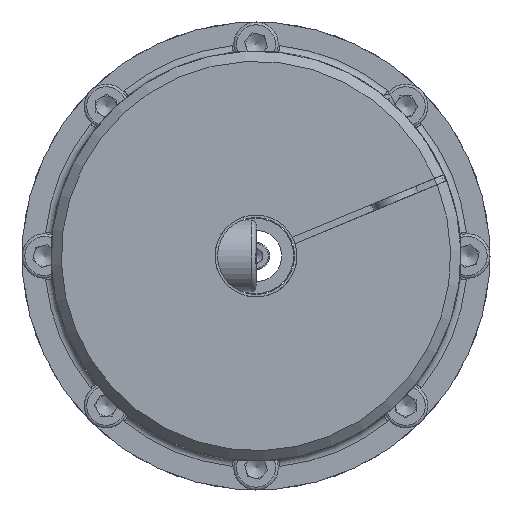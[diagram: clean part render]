
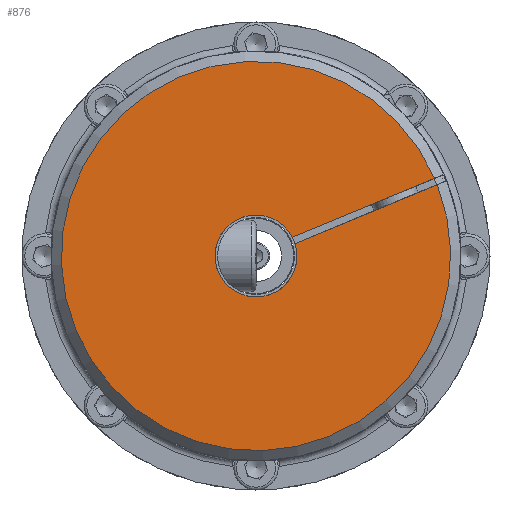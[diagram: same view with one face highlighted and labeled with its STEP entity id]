
A CAD part, left-side view. The second image highlights one B-rep face of the part: STEP entity #876.
In plain terms, the highlighted planar face has unit normal (-1, 0, 0).
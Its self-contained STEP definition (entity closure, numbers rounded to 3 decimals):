
#876 = ADVANCED_FACE( '', ( #1751 ), #1752, .F. );
#1751 = FACE_OUTER_BOUND( '', #2933, .T. );
#1752 = PLANE( '', #2934 );
#2933 = EDGE_LOOP( '', ( #5533, #5534, #5535, #5536 ) );
#2934 = AXIS2_PLACEMENT_3D( '', #5537, #5538, #5539 );
#5533 = ORIENTED_EDGE( '', *, *, #8066, .T. );
#5534 = ORIENTED_EDGE( '', *, *, #8067, .T. );
#5535 = ORIENTED_EDGE( '', *, *, #7969, .F. );
#5536 = ORIENTED_EDGE( '', *, *, #7944, .T. );
#5537 = CARTESIAN_POINT( '', ( -54.5, 0., 57. ) );
#5538 = DIRECTION( '', ( 1., 0., 0. ) );
#5539 = DIRECTION( '', ( 0., 0., -1. ) );
#7944 = EDGE_CURVE( '', #9568, #9566, #9569, .T. );
#7969 = EDGE_CURVE( '', #9568, #9612, #9613, .T. );
#8066 = EDGE_CURVE( '', #9566, #9766, #9767, .T. );
#8067 = EDGE_CURVE( '', #9766, #9612, #9768, .T. );
#9566 = VERTEX_POINT( '', #14165 );
#9568 = VERTEX_POINT( '', #14170 );
#9569 = LINE( '', #14171, #14172 );
#9612 = VERTEX_POINT( '', #14217 );
#9613 = CIRCLE( '', #14218, 12. );
#9766 = VERTEX_POINT( '', #14606 );
#9767 = CIRCLE( '', #14607, 57. );
#9768 = LINE( '', #14608, #14609 );
#14165 = CARTESIAN_POINT( '', ( -54.5, -53.036, -20.886 ) );
#14170 = CARTESIAN_POINT( '', ( -54.5, -11.431, -3.652 ) );
#14171 = CARTESIAN_POINT( '', ( -54.5, 19.77, 9.271 ) );
#14172 = VECTOR( '', #17093, 1000. );
#14217 = CARTESIAN_POINT( '', ( -54.5, -10.665, -5.5 ) );
#14218 = AXIS2_PLACEMENT_3D( '', #17162, #17163, #17164 );
#14606 = CARTESIAN_POINT( '', ( -54.5, -52.27, -22.733 ) );
#14607 = AXIS2_PLACEMENT_3D( '', #17307, #17308, #17309 );
#14608 = CARTESIAN_POINT( '', ( -54.5, 20.535, 7.424 ) );
#14609 = VECTOR( '', #17310, 1000. );
#17093 = DIRECTION( '', ( 0., -0.924, -0.383 ) );
#17162 = CARTESIAN_POINT( '', ( -54.5, 0., 0. ) );
#17163 = DIRECTION( '', ( -1., 0., 0. ) );
#17164 = DIRECTION( '', ( 0., 0., 1. ) );
#17307 = CARTESIAN_POINT( '', ( -54.5, 0., 0. ) );
#17308 = DIRECTION( '', ( -1., 0., 0. ) );
#17309 = DIRECTION( '', ( 0., 0., 1. ) );
#17310 = DIRECTION( '', ( 0., 0.924, 0.383 ) );
